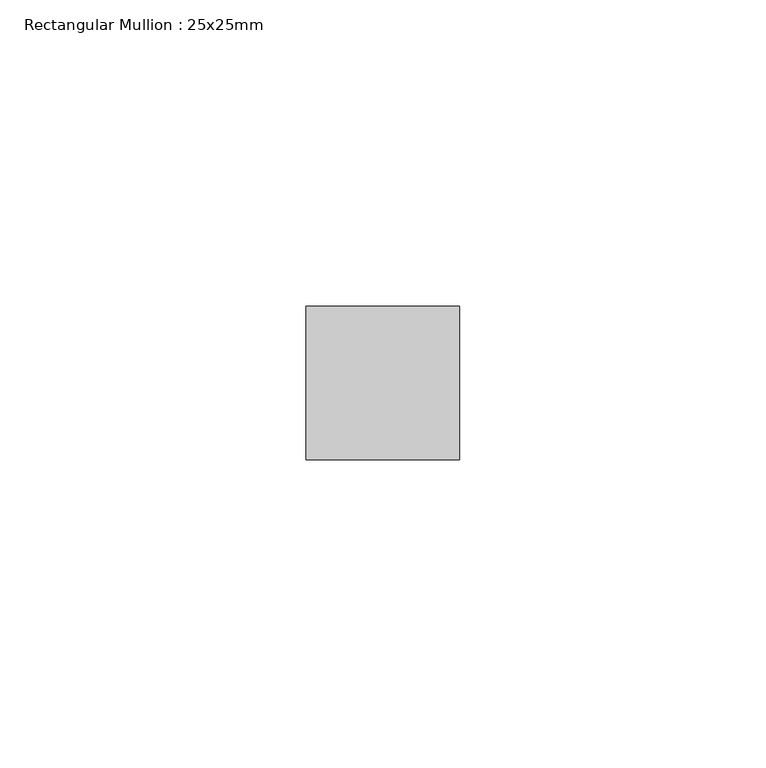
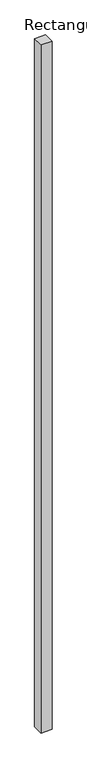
"""IFC4 building model written with IfcOpenShell, lengths in millimetres: member geometry, Rectangular Mullion : 25x25mm."""

from ifc_helpers import new_model, si_unit, frame, origin, place, context, project, spatial, polyline, outline, extrude, source, transform, mapped, element, save


def rectangular_mullion_25x25mm_4aee0d92(model_context):
    return source(origin(), model_context, "Body", "SweptSolid", [
        extrude(outline(polyline([(12.5, 0.5), (12.5, -24.5), (-12.5, -24.5), (-12.5, 0.5), (12.5, 0.5)])), frame((0.0, 0.0, -1670.0), z_axis=(0.0, 0.0, 1.0), x_axis=(1.0, 0.0, 0.0)), (0.0, 0.0, 1.0), 1670.0),
    ])


if __name__ == "__main__":
    model = new_model("IFC4")
    model_context = context("Model", 3, world=origin())
    ifc_project = project(units=[si_unit("LENGTHUNIT", "METRE", prefix="MILLI")], contexts=[model_context])
    site = spatial("IfcSite", under=ifc_project)
    building = spatial("IfcBuilding", under=site)
    placement = place(None, origin())
    rectangular_mullion_25x25mm_shape = rectangular_mullion_25x25mm_4aee0d92(model_context)
    element("IfcMember", 1, ObjectType="Rectangular Mullion : 25x25mm", at=placement, inside=building, context=model_context, shape_type="MappedRepresentation", body=[
        mapped(rectangular_mullion_25x25mm_shape, transform((0.0, 0.0, 0.0), x_axis=(1.0, 0.0, 0.0), y_axis=(0.0, 1.0, 0.0), z_axis=(0.0, 0.0, 1.0))),
    ])
    save(model, "model.ifc")
